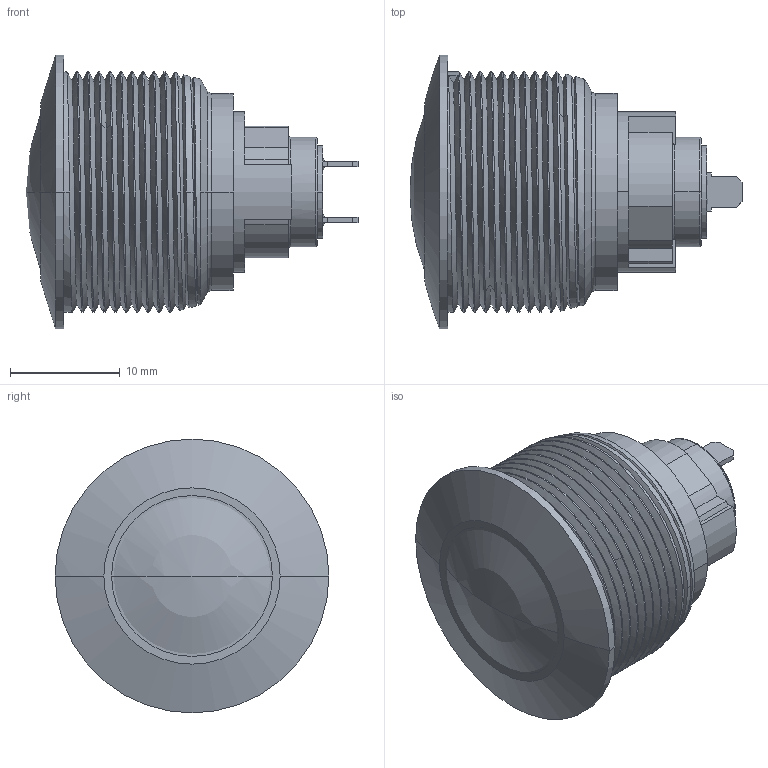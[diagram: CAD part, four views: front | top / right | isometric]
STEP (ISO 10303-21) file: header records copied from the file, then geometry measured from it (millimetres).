
FILE_DESCRIPTION((''),'2;1');
FILE_NAME('AV031001A200K','2015-07-15T',('mdamaggio'),(''),'CREO PARAMETRIC BY PTC INC, 2014440','CREO PARAMETRIC BY PTC INC, 2014440','');
FILE_SCHEMA(('CONFIG_CONTROL_DESIGN'));
Length unit declared in the file: millimetre
Products named in the file (1): AV031001A200K
Bounding box: 30.31 x 25 x 25 mm (x, y, z)
Surface area: 4007.9 mm2 (no closed solid volume)
Topology: 0 solids, 9 shells, 114 faces, 348 edges, 234 vertices
Faces by surface type: plane 47, cylinder 35, bspline 12, torus 8, cone 8, sphere 4
Entity records: 9292 total; most frequent: CARTESIAN_POINT 6332, ORIENTED_EDGE 624, DIRECTION 555, EDGE_CURVE 338, VERTEX_POINT 234, AXIS2_PLACEMENT_3D 193, VECTOR 169, LINE 169
